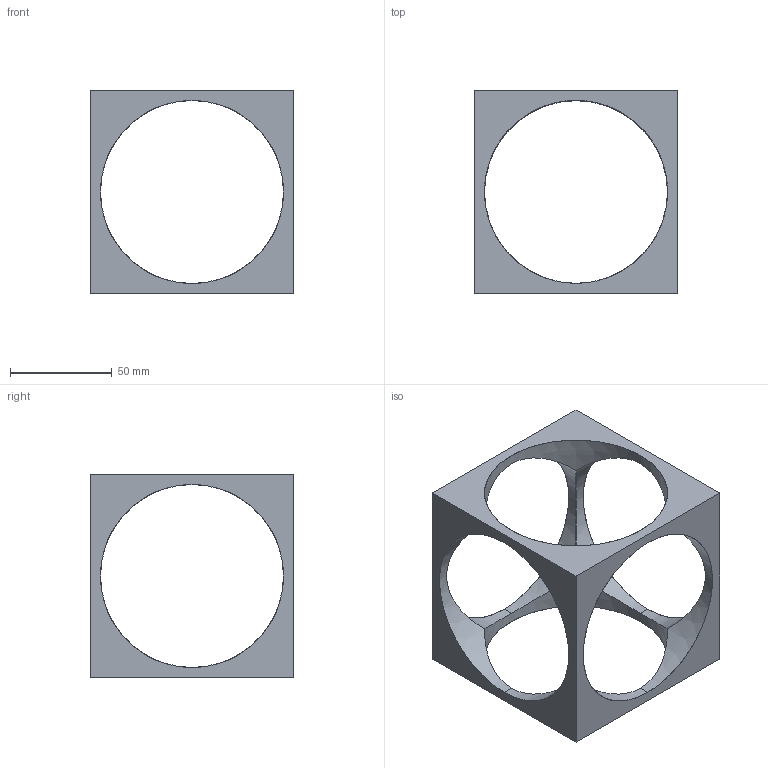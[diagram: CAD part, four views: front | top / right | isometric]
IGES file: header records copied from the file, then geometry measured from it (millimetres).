
Start section: SolidWorks IGES FILE using analytic representation for surfaces
Global section: file name: E:\2003 API Manual\API Fundamentals for SolidWorks\Lesson02 - Working with Documents\CaseStudy\sample part.IGS; native system: SolidWorks 2003 by SolidWorks Corporation; preprocessor: Version 5.3; author: jluchini; date: 021111.132846; units: millimetre
Bounding box: 100 x 100 x 100 mm (x, y, z)
Surface area: 37921.9 mm2 (no closed solid volume)
Topology: 0 solids, 0 shells, 18 faces, 828 edges, 828 vertices
Faces by surface type: revolution 12, bspline 6
